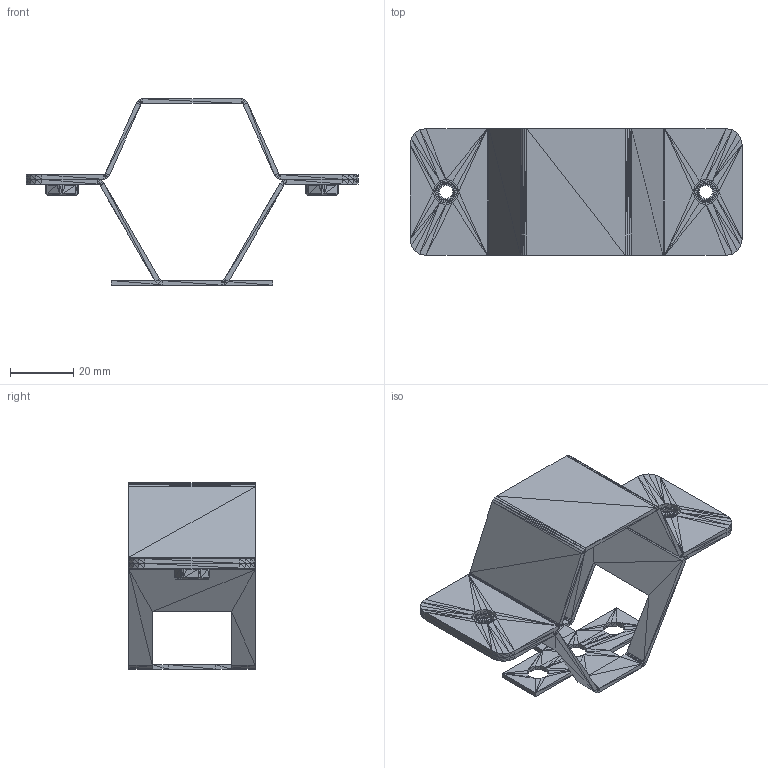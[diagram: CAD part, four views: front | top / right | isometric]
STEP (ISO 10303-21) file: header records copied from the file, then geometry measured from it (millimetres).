
FILE_DESCRIPTION((''),'2;1');
FILE_NAME('051094', '2025-12-10T10:16:08', (''), (''), 'ImageToStl.com STEP Converter','', '');
FILE_SCHEMA(('AUTOMOTIVE_DESIGN_CC2'));
Length unit declared in the file: metre
Products named in the file (1): product0
Bounding box: 105 x 40 x 59 mm (x, y, z)
Surface area: 22524.2 mm2 (no closed solid volume)
Topology: 0 solids, 1508 shells, 1508 faces, 4524 edges, 740 vertices
Faces by surface type: plane 1508
Entity records: 34684 total; most frequent: DIRECTION 7542, ORIENTED_EDGE 4524, EDGE_CURVE 4524, LINE 4524, VECTOR 4524, AXIS2_PLACEMENT_3D 1509, FACE_SURFACE 1508, PLANE 1508
